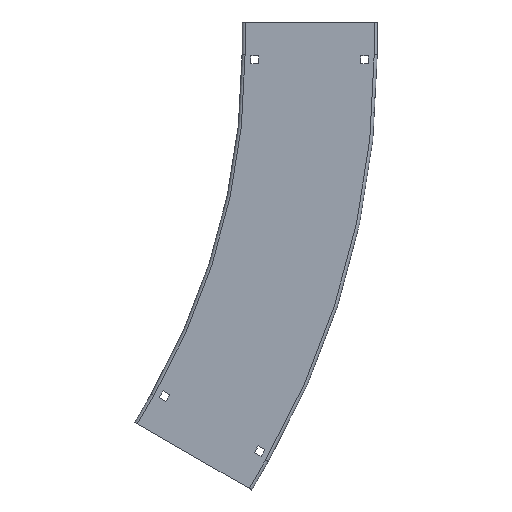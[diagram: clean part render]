
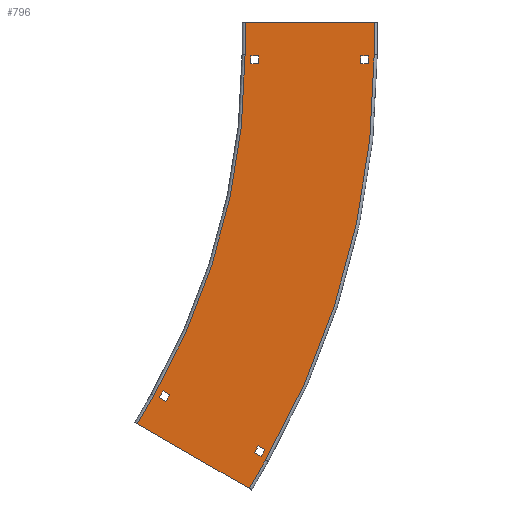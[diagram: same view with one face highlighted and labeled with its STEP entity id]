
A CAD part, left-side view. The second image highlights one B-rep face of the part: STEP entity #796.
In plain terms, the highlighted planar face has unit normal (-1, 0, 0).
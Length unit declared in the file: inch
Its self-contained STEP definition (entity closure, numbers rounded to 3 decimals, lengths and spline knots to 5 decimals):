
#1=DIRECTION('',(0.,-0.866,-0.5));
#2=VECTOR('',#1,6.858);
#3=CARTESIAN_POINT('',(0.,36.38141,23.02554));
#4=LINE('',#3,#2);
#5=DIRECTION('',(0.,1.,0.));
#6=VECTOR('',#5,6.858);
#7=CARTESIAN_POINT('',(0.,36.162,-1.75));
#8=LINE('',#7,#6);
#9=DIRECTION('',(0.,0.,-1.));
#10=VECTOR('',#9,0.41);
#11=CARTESIAN_POINT('',(0.,42.7135,0.455));
#12=LINE('',#11,#10);
#13=DIRECTION('',(0.,-1.,0.));
#14=VECTOR('',#13,0.41);
#15=CARTESIAN_POINT('',(0.,42.7135,0.045));
#16=LINE('',#15,#14);
#17=DIRECTION('',(0.,0.,1.));
#18=VECTOR('',#17,0.41);
#19=CARTESIAN_POINT('',(0.,42.3035,0.045));
#20=LINE('',#19,#18);
#21=DIRECTION('',(0.,1.,0.));
#22=VECTOR('',#21,0.41);
#23=CARTESIAN_POINT('',(0.,42.3035,0.455));
#24=LINE('',#23,#22);
#25=DIRECTION('',(0.,1.,0.));
#26=VECTOR('',#25,0.41);
#27=CARTESIAN_POINT('',(0.,36.4685,0.455));
#28=LINE('',#27,#26);
#29=DIRECTION('',(0.,0.,-1.));
#30=VECTOR('',#29,0.41);
#31=CARTESIAN_POINT('',(0.,36.8785,0.455));
#32=LINE('',#31,#30);
#33=DIRECTION('',(0.,-1.,0.));
#34=VECTOR('',#33,0.41);
#35=CARTESIAN_POINT('',(0.,36.8785,0.045));
#36=LINE('',#35,#34);
#37=DIRECTION('',(0.,0.,1.));
#38=VECTOR('',#37,0.41);
#39=CARTESIAN_POINT('',(0.,36.4685,0.045));
#40=LINE('',#39,#38);
#41=DIRECTION('',(0.,-0.866,-0.5));
#42=VECTOR('',#41,0.41);
#43=CARTESIAN_POINT('',(0.,32.1645,18.0448));
#44=LINE('',#43,#42);
#45=DIRECTION('',(0.,-0.5,0.866));
#46=VECTOR('',#45,0.41);
#47=CARTESIAN_POINT('',(0.,31.80943,17.8398));
#48=LINE('',#47,#46);
#49=DIRECTION('',(0.,0.866,0.5));
#50=VECTOR('',#49,0.41);
#51=CARTESIAN_POINT('',(0.,31.60443,18.19487));
#52=LINE('',#51,#50);
#53=DIRECTION('',(0.,0.5,-0.866));
#54=VECTOR('',#53,0.41);
#55=CARTESIAN_POINT('',(0.,31.9595,18.39987));
#56=LINE('',#55,#54);
#57=DIRECTION('',(0.,0.866,0.5));
#58=VECTOR('',#57,0.41);
#59=CARTESIAN_POINT('',(0.,36.65779,21.11242));
#60=LINE('',#59,#58);
#61=DIRECTION('',(0.,0.5,-0.866));
#62=VECTOR('',#61,0.41);
#63=CARTESIAN_POINT('',(0.,37.01286,21.31742));
#64=LINE('',#63,#62);
#65=DIRECTION('',(0.,-0.866,-0.5));
#66=VECTOR('',#65,0.41);
#67=CARTESIAN_POINT('',(0.,37.21786,20.96235));
#68=LINE('',#67,#66);
#69=DIRECTION('',(0.,-0.5,0.866));
#70=VECTOR('',#69,0.41);
#71=CARTESIAN_POINT('',(0.,36.86279,20.75735));
#72=LINE('',#71,#70);
#73=DIRECTION('',(0.,0.,1.));
#74=VECTOR('',#73,1.75);
#75=CARTESIAN_POINT('',(0.,43.02,-1.75));
#76=LINE('',#75,#74);
#114=DIRECTION('',(0.,0.,-1.));
#115=VECTOR('',#114,1.75);
#116=CARTESIAN_POINT('',(0.,36.162,0.));
#117=LINE('',#116,#115);
#123=CARTESIAN_POINT('',(0.,0.,0.));
#124=DIRECTION('',(-1.,0.,0.));
#125=DIRECTION('',(0.,0.866,0.5));
#126=AXIS2_PLACEMENT_3D('',#123,#124,#125);
#128=DIRECTION('',(0.,0.5,-0.866));
#129=VECTOR('',#128,1.75);
#130=CARTESIAN_POINT('',(0.,30.44221,19.59654));
#131=LINE('',#130,#129);
#169=DIRECTION('',(0.,-0.5,0.866));
#170=VECTOR('',#169,1.75);
#171=CARTESIAN_POINT('',(0.,37.25641,21.51));
#172=LINE('',#171,#170);
#178=CARTESIAN_POINT('',(0.,0.,0.));
#179=DIRECTION('',(1.,0.,0.));
#180=DIRECTION('',(0.,1.,0.));
#181=AXIS2_PLACEMENT_3D('',#178,#179,#180);
#573=CARTESIAN_POINT('',(0.,30.44221,19.59654));
#575=VERTEX_POINT('',#573);
#579=CARTESIAN_POINT('',(0.,31.31721,18.081));
#581=VERTEX_POINT('',#579);
#585=CARTESIAN_POINT('',(0.,36.162,0.));
#587=VERTEX_POINT('',#585);
#591=CARTESIAN_POINT('',(0.,36.162,-1.75));
#593=VERTEX_POINT('',#591);
#621=CARTESIAN_POINT('',(0.,43.02,-1.75));
#622=VERTEX_POINT('',#621);
#623=CARTESIAN_POINT('',(0.,36.38141,23.02554));
#624=VERTEX_POINT('',#623);
#629=CARTESIAN_POINT('',(0.,43.02,0.));
#631=VERTEX_POINT('',#629);
#635=CARTESIAN_POINT('',(0.,37.25641,21.51));
#637=VERTEX_POINT('',#635);
#669=CARTESIAN_POINT('',(0.,42.7135,0.455));
#670=CARTESIAN_POINT('',(0.,42.7135,0.045));
#671=VERTEX_POINT('',#669);
#672=VERTEX_POINT('',#670);
#673=CARTESIAN_POINT('',(0.,42.3035,0.045));
#674=VERTEX_POINT('',#673);
#675=CARTESIAN_POINT('',(0.,42.3035,0.455));
#676=VERTEX_POINT('',#675);
#677=CARTESIAN_POINT('',(0.,36.4685,0.455));
#678=CARTESIAN_POINT('',(0.,36.8785,0.455));
#679=VERTEX_POINT('',#677);
#680=VERTEX_POINT('',#678);
#681=CARTESIAN_POINT('',(0.,36.8785,0.045));
#682=VERTEX_POINT('',#681);
#683=CARTESIAN_POINT('',(0.,36.4685,0.045));
#684=VERTEX_POINT('',#683);
#701=CARTESIAN_POINT('',(0.,32.1645,18.0448));
#702=CARTESIAN_POINT('',(0.,31.80943,17.8398));
#703=VERTEX_POINT('',#701);
#704=VERTEX_POINT('',#702);
#705=CARTESIAN_POINT('',(0.,31.60443,18.19487));
#706=VERTEX_POINT('',#705);
#707=CARTESIAN_POINT('',(0.,31.9595,18.39987));
#708=VERTEX_POINT('',#707);
#709=CARTESIAN_POINT('',(0.,36.65779,21.11242));
#710=CARTESIAN_POINT('',(0.,37.01286,21.31742));
#711=VERTEX_POINT('',#709);
#712=VERTEX_POINT('',#710);
#713=CARTESIAN_POINT('',(0.,37.21786,20.96235));
#714=VERTEX_POINT('',#713);
#715=CARTESIAN_POINT('',(0.,36.86279,20.75735));
#716=VERTEX_POINT('',#715);
#733=CARTESIAN_POINT('',(0.,0.,0.));
#734=DIRECTION('',(1.,0.,0.));
#735=DIRECTION('',(0.,0.,-1.));
#736=AXIS2_PLACEMENT_3D('',#733,#734,#735);
#737=PLANE('',#736);
#739=ORIENTED_EDGE('',*,*,#738,.T.);
#741=ORIENTED_EDGE('',*,*,#740,.T.);
#743=ORIENTED_EDGE('',*,*,#742,.T.);
#745=ORIENTED_EDGE('',*,*,#744,.T.);
#747=ORIENTED_EDGE('',*,*,#746,.T.);
#749=ORIENTED_EDGE('',*,*,#748,.T.);
#751=ORIENTED_EDGE('',*,*,#750,.T.);
#753=ORIENTED_EDGE('',*,*,#752,.T.);
#754=EDGE_LOOP('',(#739,#741,#743,#745,#747,#749,#751,#753));
#755=FACE_OUTER_BOUND('',#754,.F.);
#757=ORIENTED_EDGE('',*,*,#756,.T.);
#759=ORIENTED_EDGE('',*,*,#758,.T.);
#761=ORIENTED_EDGE('',*,*,#760,.T.);
#763=ORIENTED_EDGE('',*,*,#762,.T.);
#764=EDGE_LOOP('',(#757,#759,#761,#763));
#765=FACE_BOUND('',#764,.F.);
#767=ORIENTED_EDGE('',*,*,#766,.T.);
#769=ORIENTED_EDGE('',*,*,#768,.T.);
#771=ORIENTED_EDGE('',*,*,#770,.T.);
#773=ORIENTED_EDGE('',*,*,#772,.T.);
#774=EDGE_LOOP('',(#767,#769,#771,#773));
#775=FACE_BOUND('',#774,.F.);
#777=ORIENTED_EDGE('',*,*,#776,.T.);
#779=ORIENTED_EDGE('',*,*,#778,.T.);
#781=ORIENTED_EDGE('',*,*,#780,.T.);
#783=ORIENTED_EDGE('',*,*,#782,.T.);
#784=EDGE_LOOP('',(#777,#779,#781,#783));
#785=FACE_BOUND('',#784,.F.);
#787=ORIENTED_EDGE('',*,*,#786,.T.);
#789=ORIENTED_EDGE('',*,*,#788,.T.);
#791=ORIENTED_EDGE('',*,*,#790,.T.);
#793=ORIENTED_EDGE('',*,*,#792,.T.);
#794=EDGE_LOOP('',(#787,#789,#791,#793));
#795=FACE_BOUND('',#794,.F.);
#796=ADVANCED_FACE('',(#755,#765,#775,#785,#795),#737,.F.);
#127=CIRCLE('',#126,36.162);
#182=CIRCLE('',#181,43.02);
#738=EDGE_CURVE('',#622,#631,#76,.T.);
#740=EDGE_CURVE('',#631,#637,#182,.T.);
#742=EDGE_CURVE('',#637,#624,#172,.T.);
#744=EDGE_CURVE('',#624,#575,#4,.T.);
#746=EDGE_CURVE('',#575,#581,#131,.T.);
#748=EDGE_CURVE('',#581,#587,#127,.T.);
#750=EDGE_CURVE('',#587,#593,#117,.T.);
#752=EDGE_CURVE('',#593,#622,#8,.T.);
#756=EDGE_CURVE('',#671,#672,#12,.T.);
#758=EDGE_CURVE('',#672,#674,#16,.T.);
#760=EDGE_CURVE('',#674,#676,#20,.T.);
#762=EDGE_CURVE('',#676,#671,#24,.T.);
#766=EDGE_CURVE('',#679,#680,#28,.T.);
#768=EDGE_CURVE('',#680,#682,#32,.T.);
#770=EDGE_CURVE('',#682,#684,#36,.T.);
#772=EDGE_CURVE('',#684,#679,#40,.T.);
#776=EDGE_CURVE('',#703,#704,#44,.T.);
#778=EDGE_CURVE('',#704,#706,#48,.T.);
#780=EDGE_CURVE('',#706,#708,#52,.T.);
#782=EDGE_CURVE('',#708,#703,#56,.T.);
#786=EDGE_CURVE('',#711,#712,#60,.T.);
#788=EDGE_CURVE('',#712,#714,#64,.T.);
#790=EDGE_CURVE('',#714,#716,#68,.T.);
#792=EDGE_CURVE('',#716,#711,#72,.T.);
